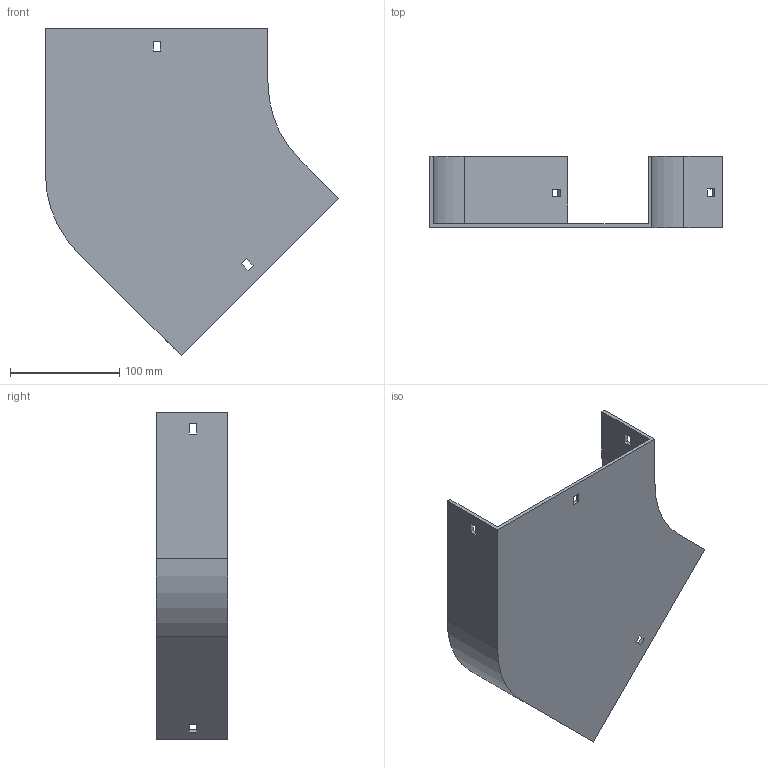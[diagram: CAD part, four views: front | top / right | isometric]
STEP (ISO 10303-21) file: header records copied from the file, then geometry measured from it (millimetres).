
FILE_DESCRIPTION (( 'STEP AP214' ), '1' );
FILE_NAME ('11B1H200.step', '2025-02-21T09:38:11', ( '' ), ( '' ), 'SwSTEP 2.0', 'SolidWorks 2023', '' );
FILE_SCHEMA (( 'AUTOMOTIVE_DESIGN' ));
Length unit declared in the file: millimetre
Products named in the file (1): 11B1H200
Bounding box: 268.64 x 65.5 x 300.32 mm (x, y, z)
Volume: 303652 mm3; surface area: 178345.7 mm2
Topology: 1 solids, 1 shells, 42 faces, 120 edges, 80 vertices
Faces by surface type: plane 38, cylinder 4
Entity records: 1399 total; most frequent: CARTESIAN_POINT 243, ORIENTED_EDGE 240, DIRECTION 214, EDGE_CURVE 120, VECTOR 112, LINE 112, VERTEX_POINT 80, EDGE_LOOP 54
